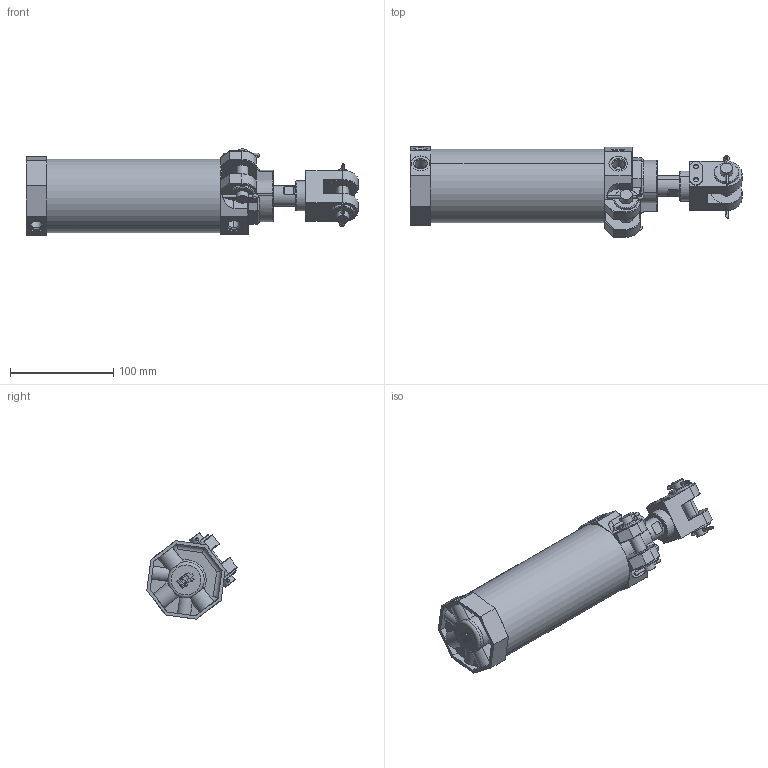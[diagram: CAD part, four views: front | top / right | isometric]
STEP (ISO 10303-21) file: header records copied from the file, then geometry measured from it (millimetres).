
FILE_DESCRIPTION(('CATIA V5 STEP Exchange'),'2;1');
FILE_NAME('D:\stp file for catalog\PRCCA\prcca 63\PRCCA 63-20-125.stp','2015-05-05T07:00:32+00:00',('none'),('none'),'Version 5-6 Release 2012','CATIA V5 STEP AP203','none');
FILE_SCHEMA(('CONFIG_CONTROL_DESIGN'));
Length unit declared in the file: millimetre
Products named in the file (3): pncca 63-20-125; Product1.1; PNCCA 50-20-50-02
Assembly tree (14 placements, depth 3):
  pncca 63-20-125
    Product1.1
      #66
      #7309
      #7478
      #14308  x2
      #14830
      #15156
      #15388
    PNCCA 50-20-50-02
      #15626
      #14830
      #14308  x2
Bounding box: 321.2 x 87.47 x 83.54 mm (x, y, z)
Volume: 539982.8 mm3; surface area: 171470.2 mm2
Topology: 12 solids, 12 shells, 636 faces, 1569 edges, 1005 vertices
Faces by surface type: cylinder 263, plane 256, cone 57, revolution 32, torus 18, bspline 9, extrusion 1
Entity records: 17914 total; most frequent: CARTESIAN_POINT 4489, ORIENTED_EDGE 2922, DIRECTION 2203, EDGE_CURVE 1461, AXIS2_PLACEMENT_3D 973, VERTEX_POINT 933, VECTOR 778, LINE 777
